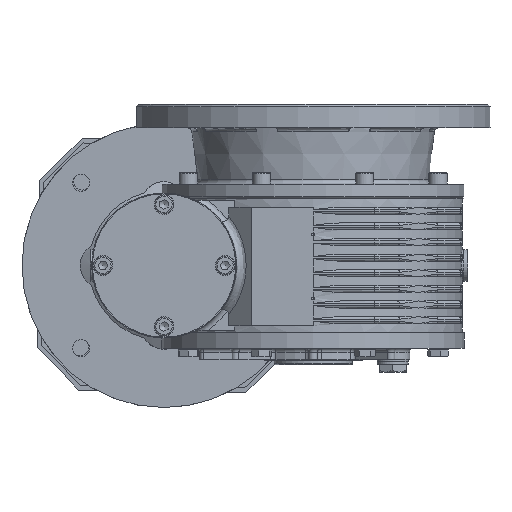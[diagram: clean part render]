
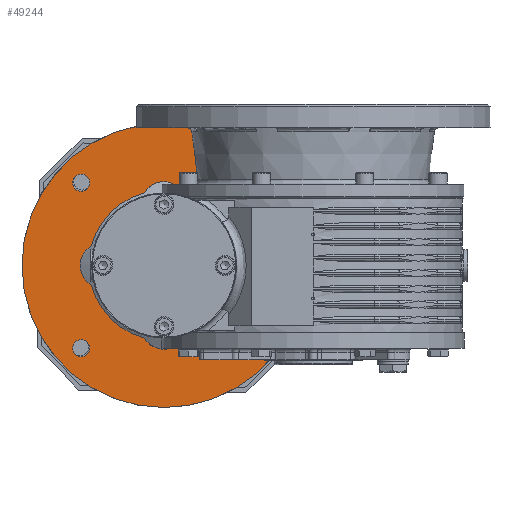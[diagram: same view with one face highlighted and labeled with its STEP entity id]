
A CAD part, left-side view. The second image highlights one B-rep face of the part: STEP entity #49244.
In plain terms, the highlighted planar face has unit normal (-1, 0, 0) as drawn and (0, 0, 1) by its records, which use the part's own axes.
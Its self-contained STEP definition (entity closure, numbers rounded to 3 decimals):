
#47481=CARTESIAN_POINT('',(-64.336,-58.336,11.0));
#47482=VERTEX_POINT('',#47481);
#47483=CARTESIAN_POINT('',(-58.336,-58.336,11.0));
#47484=DIRECTION('',(0.0,0.0,-1.0));
#47485=DIRECTION('',(1.0,0.0,0.0));
#47486=AXIS2_PLACEMENT_3D('',#47483,#47484,#47485);
#47487=CIRCLE('',#47486,6.);
#47488=EDGE_CURVE('',#47482,#47482,#47487,.T.);
#47501=CARTESIAN_POINT('',(52.336,58.336,11.0));
#47502=VERTEX_POINT('',#47501);
#47503=CARTESIAN_POINT('',(58.336,58.336,11.0));
#47504=DIRECTION('',(0.0,0.0,-1.0));
#47505=DIRECTION('',(1.0,0.0,0.0));
#47506=AXIS2_PLACEMENT_3D('',#47503,#47504,#47505);
#47507=CIRCLE('',#47506,6.);
#47508=EDGE_CURVE('',#47502,#47502,#47507,.T.);
#47521=CARTESIAN_POINT('',(-64.336,58.336,11.0));
#47522=VERTEX_POINT('',#47521);
#47523=CARTESIAN_POINT('',(-58.336,58.336,11.0));
#47524=DIRECTION('',(0.0,0.0,-1.0));
#47525=DIRECTION('',(1.0,0.0,0.0));
#47526=AXIS2_PLACEMENT_3D('',#47523,#47524,#47525);
#47527=CIRCLE('',#47526,6.);
#47528=EDGE_CURVE('',#47522,#47522,#47527,.T.);
#47541=CARTESIAN_POINT('',(52.336,-58.336,11.0));
#47542=VERTEX_POINT('',#47541);
#47543=CARTESIAN_POINT('',(58.336,-58.336,11.0));
#47544=DIRECTION('',(0.0,0.0,-1.0));
#47545=DIRECTION('',(1.0,0.0,0.0));
#47546=AXIS2_PLACEMENT_3D('',#47543,#47544,#47545);
#47547=CIRCLE('',#47546,6.);
#47548=EDGE_CURVE('',#47542,#47542,#47547,.T.);
#48984=CARTESIAN_POINT('',(-13.747,51.186,11.0));
#48985=VERTEX_POINT('',#48984);
#48992=CARTESIAN_POINT('',(-51.186,13.747,11.0));
#48993=VERTEX_POINT('',#48992);
#48994=CARTESIAN_POINT('',(0.0,0.0,11.0));
#48995=DIRECTION('',(0.0,0.0,-1.0));
#48996=DIRECTION('',(-1.0,0.0,0.0));
#48997=AXIS2_PLACEMENT_3D('',#48994,#48995,#48996);
#48998=CIRCLE('',#48997,53.);
#48999=EDGE_CURVE('',#48993,#48985,#48998,.T.);
#49017=CARTESIAN_POINT('',(13.747,51.186,11.0));
#49018=VERTEX_POINT('',#49017);
#49025=CARTESIAN_POINT('',(0.0,43.0,11.0));
#49026=DIRECTION('',(0.0,0.0,-1.0));
#49027=DIRECTION('',(-1.0,0.0,0.0));
#49028=AXIS2_PLACEMENT_3D('',#49025,#49026,#49027);
#49029=CIRCLE('',#49028,16.0);
#49030=EDGE_CURVE('',#48985,#49018,#49029,.T.);
#49042=CARTESIAN_POINT('',(51.186,13.747,11.0));
#49043=VERTEX_POINT('',#49042);
#49050=CARTESIAN_POINT('',(0.0,0.0,11.0));
#49051=DIRECTION('',(0.0,0.0,-1.0));
#49052=DIRECTION('',(-1.0,0.0,0.0));
#49053=AXIS2_PLACEMENT_3D('',#49050,#49051,#49052);
#49054=CIRCLE('',#49053,53.);
#49055=EDGE_CURVE('',#49018,#49043,#49054,.T.);
#49079=CARTESIAN_POINT('',(-51.186,-13.747,11.0));
#49080=VERTEX_POINT('',#49079);
#49087=CARTESIAN_POINT('',(-13.747,-51.186,11.0));
#49088=VERTEX_POINT('',#49087);
#49089=CARTESIAN_POINT('',(0.0,0.0,11.0));
#49090=DIRECTION('',(0.0,0.0,-1.0));
#49091=DIRECTION('',(-1.0,0.0,0.0));
#49092=AXIS2_PLACEMENT_3D('',#49089,#49090,#49091);
#49093=CIRCLE('',#49092,53.);
#49094=EDGE_CURVE('',#49088,#49080,#49093,.T.);
#49111=CARTESIAN_POINT('',(13.747,-51.186,11.0));
#49112=VERTEX_POINT('',#49111);
#49119=CARTESIAN_POINT('',(51.186,-13.747,11.0));
#49120=VERTEX_POINT('',#49119);
#49121=CARTESIAN_POINT('',(0.0,0.0,11.0));
#49122=DIRECTION('',(0.0,0.0,-1.0));
#49123=DIRECTION('',(-1.0,0.0,0.0));
#49124=AXIS2_PLACEMENT_3D('',#49121,#49122,#49123);
#49125=CIRCLE('',#49124,53.);
#49126=EDGE_CURVE('',#49120,#49112,#49125,.T.);
#49144=CARTESIAN_POINT('',(43.0,0.,11.0));
#49145=DIRECTION('',(0.0,0.0,-1.0));
#49146=DIRECTION('',(-1.0,0.0,0.0));
#49147=AXIS2_PLACEMENT_3D('',#49144,#49145,#49146);
#49148=CIRCLE('',#49147,16.0);
#49149=EDGE_CURVE('',#49043,#49120,#49148,.T.);
#49163=CARTESIAN_POINT('',(-43.0,0.,11.0));
#49164=DIRECTION('',(0.0,0.0,-1.0));
#49165=DIRECTION('',(-1.0,0.0,0.0));
#49166=AXIS2_PLACEMENT_3D('',#49163,#49164,#49165);
#49167=CIRCLE('',#49166,16.0);
#49168=EDGE_CURVE('',#49080,#48993,#49167,.T.);
#49182=CARTESIAN_POINT('',(0.,-43.0,11.0));
#49183=DIRECTION('',(0.0,0.0,-1.0));
#49184=DIRECTION('',(-1.0,0.0,0.0));
#49185=AXIS2_PLACEMENT_3D('',#49182,#49183,#49184);
#49186=CIRCLE('',#49185,16.0);
#49187=EDGE_CURVE('',#49112,#49088,#49186,.T.);
#49199=CARTESIAN_POINT('',(100.0,0.,11.0));
#49200=VERTEX_POINT('',#49199);
#49201=CARTESIAN_POINT('',(0.0,0.0,11.0));
#49202=DIRECTION('',(0.0,0.0,-1.0));
#49203=DIRECTION('',(-1.0,0.0,0.0));
#49204=AXIS2_PLACEMENT_3D('',#49201,#49202,#49203);
#49205=CIRCLE('',#49204,100.0);
#49206=EDGE_CURVE('',#49200,#49200,#49205,.T.);
#49214=CARTESIAN_POINT('',(0.0,0.0,11.0));
#49215=DIRECTION('',(0.0,0.0,-1.0));
#49216=DIRECTION('',(-1.0,0.0,0.0));
#49217=AXIS2_PLACEMENT_3D('',#49214,#49215,#49216);
#49218=PLANE('',#49217);
#49219=ORIENTED_EDGE('',*,*,#49206,.F.);
#49220=EDGE_LOOP('',(#49219));
#49221=FACE_OUTER_BOUND('',#49220,.T.);
#49222=ORIENTED_EDGE('',*,*,#47488,.T.);
#49223=EDGE_LOOP('',(#49222));
#49224=FACE_BOUND('',#49223,.T.);
#49225=ORIENTED_EDGE('',*,*,#47508,.T.);
#49226=EDGE_LOOP('',(#49225));
#49227=FACE_BOUND('',#49226,.T.);
#49228=ORIENTED_EDGE('',*,*,#47528,.T.);
#49229=EDGE_LOOP('',(#49228));
#49230=FACE_BOUND('',#49229,.T.);
#49231=ORIENTED_EDGE('',*,*,#47548,.T.);
#49232=EDGE_LOOP('',(#49231));
#49233=FACE_BOUND('',#49232,.T.);
#49234=ORIENTED_EDGE('',*,*,#49126,.T.);
#49235=ORIENTED_EDGE('',*,*,#49187,.T.);
#49236=ORIENTED_EDGE('',*,*,#49094,.T.);
#49237=ORIENTED_EDGE('',*,*,#49168,.T.);
#49238=ORIENTED_EDGE('',*,*,#48999,.T.);
#49239=ORIENTED_EDGE('',*,*,#49030,.T.);
#49240=ORIENTED_EDGE('',*,*,#49055,.T.);
#49241=ORIENTED_EDGE('',*,*,#49149,.T.);
#49242=EDGE_LOOP('',(#49234,#49235,#49236,#49237,#49238,#49239,#49240,#49241));
#49243=FACE_BOUND('',#49242,.T.);
#49244=ADVANCED_FACE('',(#49221,#49224,#49227,#49230,#49233,#49243),#49218,.F.);
